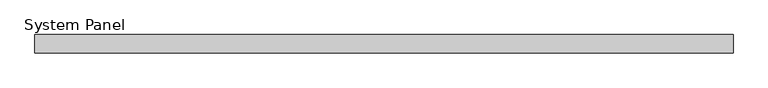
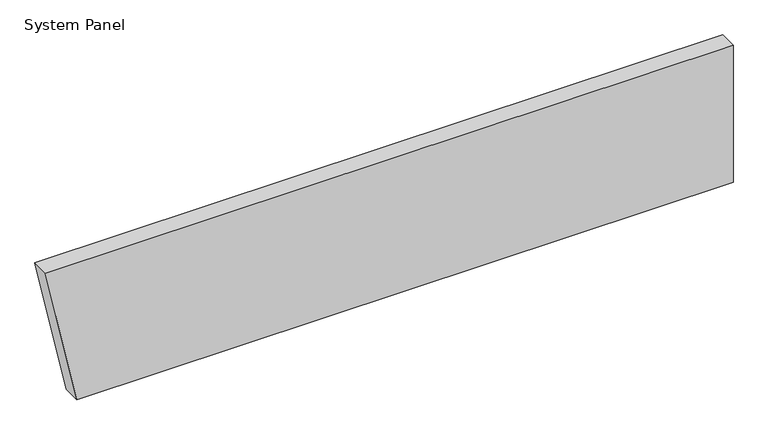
"""IFC4 building model written with IfcOpenShell, lengths in millimetres: plate geometry, System Panel : Equitilt 150mm Horizontal - Plain RHEA - EPS-FR."""

from ifc_helpers import new_model, si_unit, frame, origin, place, context, project, spatial, polyline, outline, extrude, source, transform, mapped, element, save


def system_panel_1b0c88f6(model_context):
    return source(origin(), model_context, "Body", "SweptSolid", [
        extrude(outline(polyline([(0.0, -2590.0), (0.0, 2850.8716619), (1200.0, 2850.8716619), (1200.0, -2850.8716619), (0.0, -2590.0)])), frame((0.0, -150.0, 0.0), z_axis=(0.0, 1.0, 0.0), x_axis=(0.0, 0.0, 1.0)), (0.0, 0.0, 1.0), 150.0),
    ])


if __name__ == "__main__":
    model = new_model("IFC4")
    model_context = context("Model", 3, world=origin())
    ifc_project = project(units=[si_unit("LENGTHUNIT", "METRE", prefix="MILLI")], contexts=[model_context])
    site = spatial("IfcSite", under=ifc_project)
    building = spatial("IfcBuilding", under=site)
    placement = place(None, origin())
    system_panel_shape = system_panel_1b0c88f6(model_context)
    element("IfcPlate", 1, ObjectType="System Panel : Equitilt 150mm Horizontal - Plain RHEA - EPS-FR", at=placement, inside=building, context=model_context, shape_type="MappedRepresentation", body=[
        mapped(system_panel_shape, transform((0.0, 0.0, 0.0), x_axis=(1.0, 0.0, 0.0), y_axis=(0.0, 1.0, 0.0), z_axis=(0.0, 0.0, 1.0))),
    ])
    save(model, "model.ifc")
